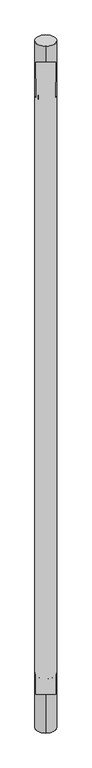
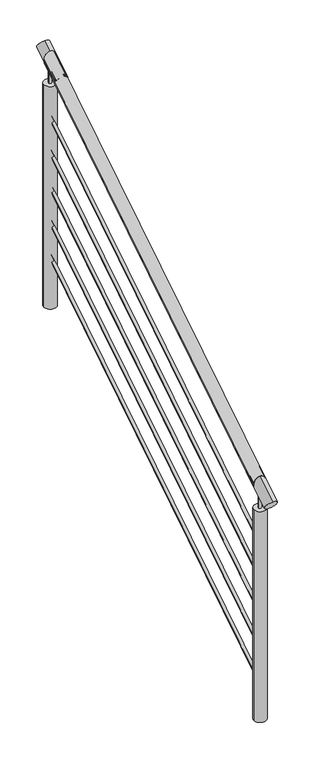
"""IFC4 building model written with IfcOpenShell, lengths in millimetres: railing geometry, Barandal escalera."""

from ifc_helpers import new_model, si_unit, point, frame, frame_2d, origin, place, context, project, spatial, circle_curve, ellipse_curve, trimmed, segment, composite_curve, outline, extrude, source, transform, mapped, element, save
from ifc_brep_helpers import plane_surface, cylinder_surface, advanced_brep


def railing_f5d033c7(model_context):
    return source(origin(), model_context, "Body", "SolidModel", [
        advanced_brep(
        [(41579.1059119, 26531.0432167, -3545.7983193), (41629.9059119, 26531.0432167, -3545.7983193), (41579.1059119, 28011.0432167, -2613.0252101), (41629.9059119, 28011.0432167, -2613.0252101)],
        [
            (0, 1, ellipse_curve(frame((41604.5059119, 26531.0432167, -3545.7983193), z_axis=(0.0, -1.0, 0.0), x_axis=(0.0, 0.0, -1.0)), 30.0238069, 25.4)),
            (1, 0, ellipse_curve(frame((41604.5059119, 26531.0432167, -3545.7983193), z_axis=(0.0, -1.0, 0.0), x_axis=(0.0, 0.0, -1.0)), 30.0238069, 25.4)),
            (2, 3, ellipse_curve(frame((41604.5059119, 28011.0432167, -2613.0252101), z_axis=(0.0, 1.0, 0.0), x_axis=(0.0, 0.0, -1.0)), 30.0238069, 25.4)),
            (3, 2, ellipse_curve(frame((41604.5059119, 28011.0432167, -2613.0252101), z_axis=(0.0, 1.0, 0.0), x_axis=(0.0, 0.0, -1.0)), 30.0238069, 25.4)),
            (0, 2),
            (3, 1),
        ],
        [
            plane_surface(frame((41604.5059119, 26531.0432167, -3545.7983193), z_axis=(0.0, -1.0, 0.0), x_axis=(0.0, 0.0, 1.0))),
            plane_surface(frame((41604.5059119, 28011.0432167, -2613.0252101), z_axis=(0.0, 1.0, 0.0), x_axis=(0.0, 0.0, 1.0))),
            cylinder_surface(frame((41604.5059119, 26531.0432167, -3545.7983193), z_axis=(0.0, -0.8459953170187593, -0.5331903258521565), x_axis=(1.0, 0.0, 0.0)), 25.4),
        ],
        [
            (0, [[1, 2]]),
            (1, [[3, 4]]),
            (2, [[-1, 5, -4, 6]]),
            (2, [[-2, -6, -3, -5]]),
        ],
    ),
        advanced_brep(
        [(41598.1559119, 26531.0432167, -3795.7983193), (41610.8559119, 26531.0432167, -3795.7983193), (41598.1559119, 28011.0432167, -2863.0252101), (41610.8559119, 28011.0432167, -2863.0252101)],
        [
            (0, 1, ellipse_curve(frame((41604.5059119, 26531.0432167, -3795.7983193), z_axis=(0.0, -1.0, 0.0), x_axis=(0.0, 0.0, -1.0)), 7.5059517, 6.35)),
            (1, 0, ellipse_curve(frame((41604.5059119, 26531.0432167, -3795.7983193), z_axis=(0.0, -1.0, 0.0), x_axis=(0.0, 0.0, -1.0)), 7.5059517, 6.35)),
            (2, 3, ellipse_curve(frame((41604.5059119, 28011.0432167, -2863.0252101), z_axis=(0.0, 1.0, 0.0), x_axis=(0.0, 0.0, -1.0)), 7.5059517, 6.35)),
            (3, 2, ellipse_curve(frame((41604.5059119, 28011.0432167, -2863.0252101), z_axis=(0.0, 1.0, 0.0), x_axis=(0.0, 0.0, -1.0)), 7.5059517, 6.35)),
            (0, 2),
            (3, 1),
        ],
        [
            plane_surface(frame((41604.5059119, 26531.0432167, -3795.7983193), z_axis=(0.0, -1.0, 0.0), x_axis=(0.0, 0.0, 1.0))),
            plane_surface(frame((41604.5059119, 28011.0432167, -2863.0252101), z_axis=(0.0, 1.0, 0.0), x_axis=(0.0, 0.0, 1.0))),
            cylinder_surface(frame((41604.5059119, 26531.0432167, -3795.7983193), z_axis=(0.0, -0.8459953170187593, -0.5331903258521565), x_axis=(1.0, 0.0, 0.0)), 6.35),
        ],
        [
            (0, [[1, 2]]),
            (1, [[3, 4]]),
            (2, [[-1, 5, -4, 6]]),
            (2, [[-2, -6, -3, -5]]),
        ],
    ),
        advanced_brep(
        [(41598.1559119, 26531.0432167, -3945.7983193), (41610.8559119, 26531.0432167, -3945.7983193), (41598.1559119, 28011.0432167, -3013.0252101), (41610.8559119, 28011.0432167, -3013.0252101)],
        [
            (0, 1, ellipse_curve(frame((41604.5059119, 26531.0432167, -3945.7983193), z_axis=(0.0, -1.0, 0.0), x_axis=(0.0, 0.0, -1.0)), 7.5059517, 6.35)),
            (1, 0, ellipse_curve(frame((41604.5059119, 26531.0432167, -3945.7983193), z_axis=(0.0, -1.0, 0.0), x_axis=(0.0, 0.0, -1.0)), 7.5059517, 6.35)),
            (2, 3, ellipse_curve(frame((41604.5059119, 28011.0432167, -3013.0252101), z_axis=(0.0, 1.0, 0.0), x_axis=(0.0, 0.0, -1.0)), 7.5059517, 6.35)),
            (3, 2, ellipse_curve(frame((41604.5059119, 28011.0432167, -3013.0252101), z_axis=(0.0, 1.0, 0.0), x_axis=(0.0, 0.0, -1.0)), 7.5059517, 6.35)),
            (0, 2),
            (3, 1),
        ],
        [
            plane_surface(frame((41604.5059119, 26531.0432167, -3945.7983193), z_axis=(0.0, -1.0, 0.0), x_axis=(0.0, 0.0, 1.0))),
            plane_surface(frame((41604.5059119, 28011.0432167, -3013.0252101), z_axis=(0.0, 1.0, 0.0), x_axis=(0.0, 0.0, 1.0))),
            cylinder_surface(frame((41604.5059119, 26531.0432167, -3945.7983193), z_axis=(0.0, -0.8459953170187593, -0.5331903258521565), x_axis=(1.0, 0.0, 0.0)), 6.35),
        ],
        [
            (0, [[1, 2]]),
            (1, [[3, 4]]),
            (2, [[-1, 5, -4, 6]]),
            (2, [[-2, -6, -3, -5]]),
        ],
    ),
        advanced_brep(
        [(41598.1559119, 26531.0432167, -4095.7983193), (41610.8559119, 26531.0432167, -4095.7983193), (41598.1559119, 28011.0432167, -3163.0252101), (41610.8559119, 28011.0432167, -3163.0252101)],
        [
            (0, 1, ellipse_curve(frame((41604.5059119, 26531.0432167, -4095.7983193), z_axis=(0.0, -1.0, 0.0), x_axis=(0.0, 0.0, -1.0)), 7.5059517, 6.35)),
            (1, 0, ellipse_curve(frame((41604.5059119, 26531.0432167, -4095.7983193), z_axis=(0.0, -1.0, 0.0), x_axis=(0.0, 0.0, -1.0)), 7.5059517, 6.35)),
            (2, 3, ellipse_curve(frame((41604.5059119, 28011.0432167, -3163.0252101), z_axis=(0.0, 1.0, 0.0), x_axis=(0.0, 0.0, -1.0)), 7.5059517, 6.35)),
            (3, 2, ellipse_curve(frame((41604.5059119, 28011.0432167, -3163.0252101), z_axis=(0.0, 1.0, 0.0), x_axis=(0.0, 0.0, -1.0)), 7.5059517, 6.35)),
            (0, 2),
            (3, 1),
        ],
        [
            plane_surface(frame((41604.5059119, 26531.0432167, -4095.7983193), z_axis=(0.0, -1.0, 0.0), x_axis=(0.0, 0.0, 1.0))),
            plane_surface(frame((41604.5059119, 28011.0432167, -3163.0252101), z_axis=(0.0, 1.0, 0.0), x_axis=(0.0, 0.0, 1.0))),
            cylinder_surface(frame((41604.5059119, 26531.0432167, -4095.7983193), z_axis=(0.0, -0.8459953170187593, -0.5331903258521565), x_axis=(1.0, 0.0, 0.0)), 6.35),
        ],
        [
            (0, [[1, 2]]),
            (1, [[3, 4]]),
            (2, [[-1, 5, -4, 6]]),
            (2, [[-2, -6, -3, -5]]),
        ],
    ),
        advanced_brep(
        [(41598.1559119, 26531.0432167, -4245.7983193), (41610.8559119, 26531.0432167, -4245.7983193), (41598.1559119, 28011.0432167, -3313.0252101), (41610.8559119, 28011.0432167, -3313.0252101)],
        [
            (0, 1, ellipse_curve(frame((41604.5059119, 26531.0432167, -4245.7983193), z_axis=(0.0, -1.0, 0.0), x_axis=(0.0, 0.0, -1.0)), 7.5059517, 6.35)),
            (1, 0, ellipse_curve(frame((41604.5059119, 26531.0432167, -4245.7983193), z_axis=(0.0, -1.0, 0.0), x_axis=(0.0, 0.0, -1.0)), 7.5059517, 6.35)),
            (2, 3, ellipse_curve(frame((41604.5059119, 28011.0432167, -3313.0252101), z_axis=(0.0, 1.0, 0.0), x_axis=(0.0, 0.0, -1.0)), 7.5059517, 6.35)),
            (3, 2, ellipse_curve(frame((41604.5059119, 28011.0432167, -3313.0252101), z_axis=(0.0, 1.0, 0.0), x_axis=(0.0, 0.0, -1.0)), 7.5059517, 6.35)),
            (0, 2),
            (3, 1),
        ],
        [
            plane_surface(frame((41604.5059119, 26531.0432167, -4245.7983193), z_axis=(0.0, -1.0, 0.0), x_axis=(0.0, 0.0, 1.0))),
            plane_surface(frame((41604.5059119, 28011.0432167, -3313.0252101), z_axis=(0.0, 1.0, 0.0), x_axis=(0.0, 0.0, 1.0))),
            cylinder_surface(frame((41604.5059119, 26531.0432167, -4245.7983193), z_axis=(0.0, -0.8459953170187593, -0.5331903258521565), x_axis=(1.0, 0.0, 0.0)), 6.35),
        ],
        [
            (0, [[1, 2]]),
            (1, [[3, 4]]),
            (2, [[-1, 5, -4, 6]]),
            (2, [[-2, -6, -3, -5]]),
        ],
    ),
        advanced_brep(
        [(41598.1559119, 26531.0432167, -4395.7983193), (41610.8559119, 26531.0432167, -4395.7983193), (41598.1559119, 28011.0432167, -3463.0252101), (41610.8559119, 28011.0432167, -3463.0252101)],
        [
            (0, 1, ellipse_curve(frame((41604.5059119, 26531.0432167, -4395.7983193), z_axis=(0.0, -1.0, 0.0), x_axis=(0.0, 0.0, -1.0)), 7.5059517, 6.35)),
            (1, 0, ellipse_curve(frame((41604.5059119, 26531.0432167, -4395.7983193), z_axis=(0.0, -1.0, 0.0), x_axis=(0.0, 0.0, -1.0)), 7.5059517, 6.35)),
            (2, 3, ellipse_curve(frame((41604.5059119, 28011.0432167, -3463.0252101), z_axis=(0.0, 1.0, 0.0), x_axis=(0.0, 0.0, -1.0)), 7.5059517, 6.35)),
            (3, 2, ellipse_curve(frame((41604.5059119, 28011.0432167, -3463.0252101), z_axis=(0.0, 1.0, 0.0), x_axis=(0.0, 0.0, -1.0)), 7.5059517, 6.35)),
            (0, 2),
            (3, 1),
        ],
        [
            plane_surface(frame((41604.5059119, 26531.0432167, -4395.7983193), z_axis=(0.0, -1.0, 0.0), x_axis=(0.0, 0.0, 1.0))),
            plane_surface(frame((41604.5059119, 28011.0432167, -3463.0252101), z_axis=(0.0, 1.0, 0.0), x_axis=(0.0, 0.0, 1.0))),
            cylinder_surface(frame((41604.5059119, 26531.0432167, -4395.7983193), z_axis=(0.0, -0.8459953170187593, -0.5331903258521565), x_axis=(1.0, 0.0, 0.0)), 6.35),
        ],
        [
            (0, [[1, 2]]),
            (1, [[3, 4]]),
            (2, [[-1, 5, -4, 6]]),
            (2, [[-2, -6, -3, -5]]),
        ],
    ),
        extrude(outline(composite_curve([segment(trimmed(circle_curve(frame_2d((0.0, 25.4)), 25.4), [point((0.0, 0.0))], [point((0.0, 50.8))], False, "CARTESIAN"), True, "CONTINUOUS"), segment(trimmed(circle_curve(frame_2d((0.0, 25.4)), 25.4), [point((0.0, 50.8))], [point((0.0, 0.0))], False, "CARTESIAN"), True, "CONTINUOUS")], self_intersect=False)), frame((41604.5059119, 27947.4396095, -2682.7929618), z_axis=(0.0, 0.848048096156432, 0.5299192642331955), x_axis=(-1.0, 0.0, 0.0)), (0.0, 0.0, 1.0), 150.0),
        extrude(outline(composite_curve([segment(trimmed(circle_curve(frame_2d((41604.5059119, 28011.0432167)), 6.35), [point((41610.8559119, 28011.0432167))], [point((41598.1559119, 28011.0432167))], False, "CARTESIAN"), True, "CONTINUOUS"), segment(trimmed(circle_curve(frame_2d((41604.5059119, 28011.0432167)), 6.35), [point((41598.1559119, 28011.0432167))], [point((41610.8559119, 28011.0432167))], False, "CARTESIAN"), True, "CONTINUOUS")], self_intersect=False)), frame((0.0, 0.0, -2718.0490169), z_axis=(0.0, 0.0, 1.0), x_axis=(1.0, 0.0, 0.0)), (0.0, 0.0, 1.0), 75.0),
        extrude(outline(composite_curve([segment(trimmed(circle_curve(frame_2d((41604.5059119, 28011.0432167)), 25.4), [point((41629.9059119, 28011.0432167))], [point((41579.1059119, 28011.0432167))], False, "CARTESIAN"), True, "CONTINUOUS"), segment(trimmed(circle_curve(frame_2d((41604.5059119, 28011.0432167)), 25.4), [point((41579.1059119, 28011.0432167))], [point((41629.9059119, 28011.0432167))], False, "CARTESIAN"), True, "CONTINUOUS")], self_intersect=False)), frame((0.0, 0.0, -3676.4705882), z_axis=(0.0, 0.0, 1.0), x_axis=(1.0, 0.0, 0.0)), (0.0, 0.0, 1.0), 958.4215713),
        extrude(outline(composite_curve([segment(trimmed(circle_curve(frame_2d((0.0, 25.4)), 25.4), [point((0.0, 0.0))], [point((0.0, 50.8))], False, "CARTESIAN"), True, "CONTINUOUS"), segment(trimmed(circle_curve(frame_2d((0.0, 25.4)), 25.4), [point((0.0, 50.8))], [point((0.0, 0.0))], False, "CARTESIAN"), True, "CONTINUOUS")], self_intersect=False)), frame((41604.5059119, 26467.4396095, -3615.566071), z_axis=(0.0, 0.8480480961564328, 0.5299192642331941), x_axis=(-1.0, 0.0, 0.0)), (0.0, 0.0, 1.0), 150.0),
        extrude(outline(composite_curve([segment(trimmed(circle_curve(frame_2d((41604.5059119, 26531.0432167)), 6.35), [point((41610.8559119, 26531.0432167))], [point((41598.1559119, 26531.0432167))], False, "CARTESIAN"), True, "CONTINUOUS"), segment(trimmed(circle_curve(frame_2d((41604.5059119, 26531.0432167)), 6.35), [point((41598.1559119, 26531.0432167))], [point((41610.8559119, 26531.0432167))], False, "CARTESIAN"), True, "CONTINUOUS")], self_intersect=False)), frame((0.0, 0.0, -3650.8221262), z_axis=(0.0, 0.0, 1.0), x_axis=(1.0, 0.0, 0.0)), (0.0, 0.0, 1.0), 75.0),
        extrude(outline(composite_curve([segment(trimmed(circle_curve(frame_2d((41604.5059119, 26531.0432167)), 25.4), [point((41629.9059119, 26531.0432167))], [point((41579.1059119, 26531.0432167))], False, "CARTESIAN"), True, "CONTINUOUS"), segment(trimmed(circle_curve(frame_2d((41604.5059119, 26531.0432167)), 25.4), [point((41579.1059119, 26531.0432167))], [point((41629.9059119, 26531.0432167))], False, "CARTESIAN"), True, "CONTINUOUS")], self_intersect=False)), frame((0.0, 0.0, -4558.8235294), z_axis=(0.0, 0.0, 1.0), x_axis=(1.0, 0.0, 0.0)), (0.0, 0.0, 1.0), 908.0014032),
    ])


if __name__ == "__main__":
    model = new_model("IFC4")
    model_context = context("Model", 3, world=origin())
    ifc_project = project(units=[si_unit("LENGTHUNIT", "METRE", prefix="MILLI")], contexts=[model_context])
    site = spatial("IfcSite", under=ifc_project)
    building = spatial("IfcBuilding", under=site)
    placement = place(None, origin())
    railing_shape = railing_f5d033c7(model_context)
    element("IfcRailing", 1, ObjectType="Barandal escalera", at=placement, inside=building, context=model_context, shape_type="MappedRepresentation", body=[
        mapped(railing_shape, transform((0.0, 0.0, 0.0), x_axis=(1.0, 0.0, 0.0), y_axis=(0.0, 1.0, 0.0), z_axis=(0.0, 0.0, 1.0))),
    ])
    save(model, "model.ifc")
